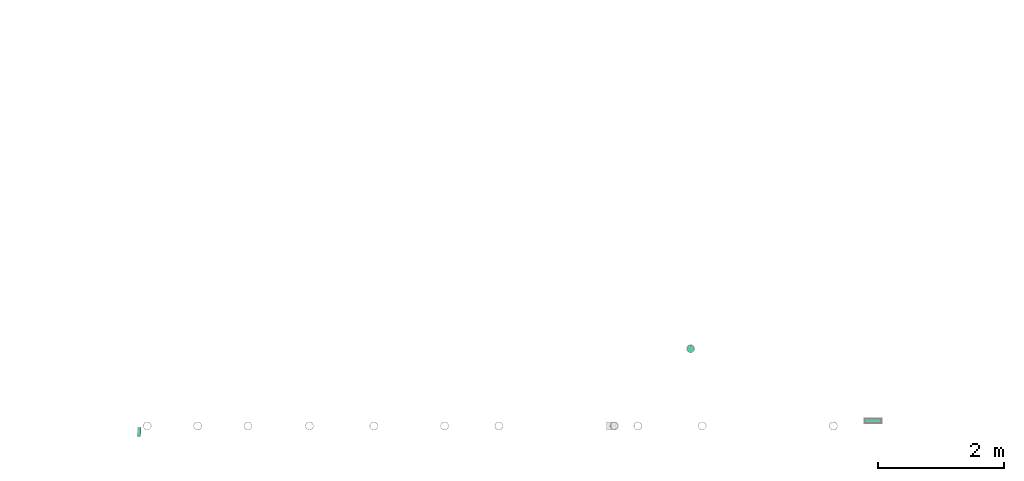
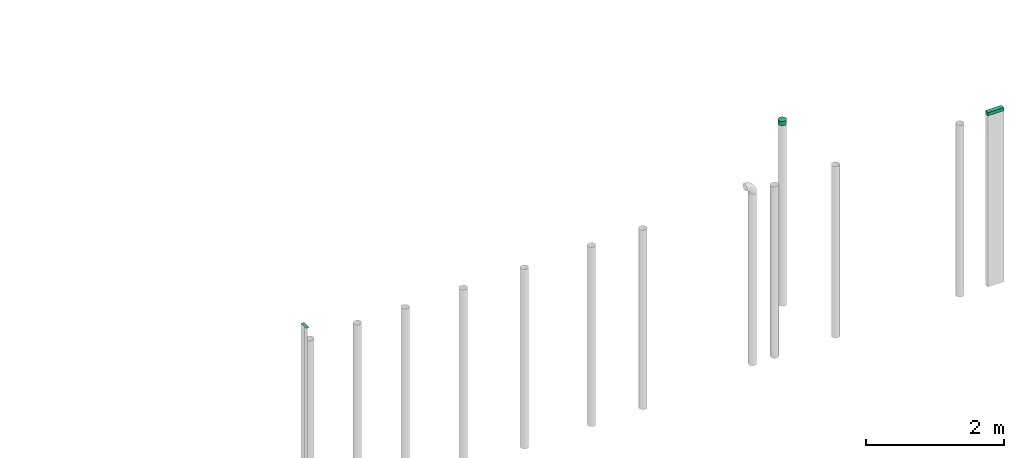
# One storey, part 7 of 7: 3 flow fittings.
"""IFC2X3 building model written with IfcOpenShell, lengths in millimetres."""

import ifcopenshell
import ifcopenshell.guid

model = None  # the IFC model being written
_history = None  # IfcOwnerHistory: only IFC2X3 demands one
_inside = {}  # id of a spatial element -> (the spatial element, [elements in it])
_under = {}  # id of a project, library or spatial element -> (it, [spatial elements below it])
_declared = {}  # id of a project -> (the project, [libraries it declares])
_typed = {}  # id of a type object -> (the type object, [elements of that type])
_made_of = {}  # id of a material, layer set ... -> (it, [elements and type objects made of it])


def new_model(schema):
    """Start an empty IFC model of exactly this schema.

    Asked for "IFC4X3", IfcOpenShell would pick the latest addendum, in which some entities
    have other attributes; the version numbers below select the first issue.
    IFC2X3 requires an IfcOwnerHistory on every rooted entity: one is made here for all.
    """
    global model, _history
    if schema == "IFC4X3":
        model = ifcopenshell.file(schema_version=(4, 3, 0, 0))
    else:
        model = ifcopenshell.file(schema=schema)
    _inside.clear()
    _under.clear()
    _declared.clear()
    _typed.clear()
    _made_of.clear()
    _history = None
    if model.schema == "IFC2X3":
        org = make("IfcOrganization", Name="unknown")
        user = make(
            "IfcPersonAndOrganization",
            ThePerson=make("IfcPerson", FamilyName="unknown"),
            TheOrganization=org,
        )
        app = make(
            "IfcApplication",
            ApplicationDeveloper=org,
            Version="unknown",
            ApplicationFullName="unknown",
            ApplicationIdentifier="unknown",
        )
        _history = make(
            "IfcOwnerHistory",
            OwningUser=user,
            OwningApplication=app,
            ChangeAction="ADDED",
            CreationDate=0,
        )
    return model


def make(cls, **values):
    """One entity of the class cls with the attributes given. An attribute that is None is left unset."""
    return model.create_entity(
        cls, **{name: value for name, value in values.items() if value is not None}
    )


def entity(cls, *values):
    """Any entity or typed value of the class cls, its attributes in the order of the schema. None: left unset."""
    e = model.create_entity(cls)
    for i, value in enumerate(values):
        if value is not None:
            e[i] = value
    return e


def rooted(cls, **values):
    """An entity with a GlobalId (a new one), such as an element, a storey or a relation."""
    return make(cls, GlobalId=ifcopenshell.guid.new(), OwnerHistory=_history, **values)


def si_unit(unit_type, name, prefix=None):
    """IfcSIUnit, for example si_unit("LENGTHUNIT", "METRE", prefix="MILLI")."""
    return make("IfcSIUnit", UnitType=unit_type, Prefix=prefix, Name=name)


def converted_unit(unit_type, name, factor, base, dimensions=None, offset=None):
    """IfcConversionBasedUnit, such as the inch: factor (a typed value) times the base unit."""
    return make(
        "IfcConversionBasedUnit"
        if offset is None
        else "IfcConversionBasedUnitWithOffset",
        ConversionOffset=offset,
        Dimensions=None
        if dimensions is None
        else entity("IfcDimensionalExponents", *dimensions),
        UnitType=unit_type,
        Name=name,
        ConversionFactor=make(
            "IfcMeasureWithUnit", ValueComponent=factor, UnitComponent=base
        ),
    )


def derived_unit(unit_type, elements):
    """IfcDerivedUnit: a product of units, each with its exponent."""
    return make(
        "IfcDerivedUnit",
        Elements=[
            make("IfcDerivedUnitElement", Unit=unit, Exponent=power)
            for unit, power in elements
        ],
        UnitType=unit_type,
    )


def assignment(units):
    """IfcUnitAssignment: the units of a project."""
    return None if units is None else make("IfcUnitAssignment", Units=units)


def point(xyz):
    """IfcCartesianPoint."""
    return None if xyz is None else make("IfcCartesianPoint", Coordinates=xyz)


def direction(xyz):
    """IfcDirection."""
    return None if xyz is None else make("IfcDirection", DirectionRatios=xyz)


def frame(location, z_axis=None, x_axis=None):
    """IfcAxis2Placement3D, a coordinate frame: its origin and axes. An axis left out is left unset."""
    return make(
        "IfcAxis2Placement3D",
        Location=point(location),
        Axis=direction(z_axis),
        RefDirection=direction(x_axis),
    )


def origin_with_axes():
    """The frame at (0, 0, 0) with the z axis (0, 0, 1) and the x axis (1, 0, 0) written out."""
    return frame((0.0, 0.0, 0.0), z_axis=(0.0, 0.0, 1.0), x_axis=(1.0, 0.0, 0.0))


def place(relative_to, where):
    """IfcLocalPlacement: puts the frame where relative to a parent placement (None: the world)."""
    return make(
        "IfcLocalPlacement", PlacementRelTo=relative_to, RelativePlacement=where
    )


def context(
    kind, dimensions, precision=None, world=None, true_north=None, identifier=None
):
    """IfcGeometricRepresentationContext, for example the 3D "Model" context."""
    return make(
        "IfcGeometricRepresentationContext",
        ContextIdentifier=identifier,
        ContextType=kind,
        CoordinateSpaceDimension=dimensions,
        Precision=precision,
        WorldCoordinateSystem=world,
        TrueNorth=true_north,
    )


def subcontext(parent, identifier, kind, view, scale=None):
    """IfcGeometricRepresentationSubContext, for example "Body" below "Model"."""
    return make(
        "IfcGeometricRepresentationSubContext",
        ContextIdentifier=identifier,
        ContextType=kind,
        ParentContext=parent,
        TargetScale=scale,
        TargetView=view,
    )


def project(units=None, contexts=None):
    """IfcProject with its units and contexts."""
    return rooted(
        "IfcProject",
        Name="project",
        RepresentationContexts=contexts,
        UnitsInContext=assignment(units),
    )


def spatial(cls, under=None, at=None, **own):
    """A site, building, storey or space (cls), placed at a placement, below another one or the project."""
    s = rooted(cls, ObjectPlacement=at, **own)
    if under is not None:
        _under.setdefault(under.id(), (under, []))[1].append(s)
    return s


def faces_of(points, faces, orient=None, outer=None):
    """IfcFace entities. A face is a list of loops; a loop is a list of indices into points, from 0.

    orient and outer hold one flag for each loop. By default every Orientation is true, the
    first loop of a face is its IfcFaceOuterBound and the others are IfcFaceBound.
    """
    made = []
    for i, loops in enumerate(faces):
        bounds = []
        for j, loop in enumerate(loops):
            is_outer = j == 0 if outer is None else outer[i][j]
            bounds.append(
                make(
                    "IfcFaceOuterBound" if is_outer else "IfcFaceBound",
                    Bound=make("IfcPolyLoop", Polygon=[points[k] for k in loop]),
                    Orientation=True if orient is None else orient[i][j],
                )
            )
        made.append(make("IfcFace", Bounds=bounds))
    return made


def open_shell(faces, orient=None, outer=None):
    """The faces of one IfcOpenShell. surface_model builds it on its shared points."""
    return ("IfcOpenShell", faces, orient, outer)


def surface_model(cls, points, shells):
    """IfcFaceBasedSurfaceModel or IfcShellBasedSurfaceModel (cls): surfaces that need not close."""
    shared = [point(p) for p in points]
    made = [make(c, CfsFaces=faces_of(shared, fs, o, b)) for c, fs, o, b in shells]
    if cls == "IfcFaceBasedSurfaceModel":
        return make(cls, FbsmFaces=made)
    return make(cls, SbsmBoundary=made)


def shape(context_of_items, identifier, shape_type, items):
    """IfcShapeRepresentation: the items that make up one representation, for example the "Body"."""
    return make(
        "IfcShapeRepresentation",
        ContextOfItems=context_of_items,
        RepresentationIdentifier=identifier,
        RepresentationType=shape_type,
        Items=items,
    )


def source(mapping_origin, context_of_items, identifier, shape_type, items):
    """IfcRepresentationMap: a shape defined once, which mapped items show again and again."""
    return make(
        "IfcRepresentationMap",
        MappingOrigin=mapping_origin,
        MappedRepresentation=shape(context_of_items, identifier, shape_type, items),
    )


def transform(
    local_origin,
    x_axis=None,
    y_axis=None,
    z_axis=None,
    scale=None,
    scale2=None,
    scale3=None,
    uniform=True,
):
    """IfcCartesianTransformationOperator3D, or its non-uniform kind. x_axis, y_axis, z_axis: its Axis1, 2, 3."""
    if uniform:
        return make(
            "IfcCartesianTransformationOperator3D",
            Axis1=direction(x_axis),
            Axis2=direction(y_axis),
            LocalOrigin=point(local_origin),
            Scale=scale,
            Axis3=direction(z_axis),
        )
    return make(
        "IfcCartesianTransformationOperator3DnonUniform",
        Axis1=direction(x_axis),
        Axis2=direction(y_axis),
        LocalOrigin=point(local_origin),
        Scale=scale,
        Axis3=direction(z_axis),
        Scale2=scale2,
        Scale3=scale3,
    )


def mapped(mapping_source, mapping_target):
    """IfcMappedItem: shows the shape of a source again, moved by a transform."""
    return make(
        "IfcMappedItem", MappingSource=mapping_source, MappingTarget=mapping_target
    )


def made_of(thing, what):
    """Note that an element or type object is made of a material, layer set ...; save() writes the relation."""
    if what is not None:
        _made_of.setdefault(what.id(), (what, []))[1].append(thing)
    return thing


def type_object(cls, material=None, **own):
    """A type object (cls), such as IfcWallType, which elements share."""
    return made_of(rooted(cls, **own), material)


def element(
    cls,
    number,
    at=None,
    inside=None,
    cuts=None,
    type_object=None,
    material=None,
    context=None,
    identifier="Body",
    shape_type=None,
    held_by="IfcProductDefinitionShape",
    body=None,
    shapes=None,
    **own,
):
    """One element of the class cls, such as IfcWall. Its Tag is "e" and its number.

    at: its placement. inside: the storey or other place that contains it. cuts: it is an
    opening in that element (IfcRelVoidsElement). A single representation is given by context,
    identifier, shape_type and body (its items); several are given by shapes. held_by: the class
    of the entity that holds the representations. save() writes the other relations.
    """
    e = rooted(cls, Tag="e%d" % number, ObjectPlacement=at, **own)
    if body is not None:
        shapes = [shape(context, identifier, shape_type, body)]
    if shapes is not None:
        e.Representation = make(held_by, Representations=shapes)
    if inside is not None:
        _inside.setdefault(inside.id(), (inside, []))[1].append(e)
    if cuts is not None:
        rooted(
            "IfcRelVoidsElement", RelatingBuildingElement=cuts, RelatedOpeningElement=e
        )
    if type_object is not None:
        _typed.setdefault(type_object.id(), (type_object, []))[1].append(e)
    return made_of(e, material)


def aggregate(whole, parts):
    """IfcRelAggregates: a whole, such as a stair, and the parts it consists of."""
    return rooted("IfcRelAggregates", RelatingObject=whole, RelatedObjects=parts)


def save(model, path):
    """Write the relations noted so far, then the file.

    IfcRelAggregates (storeys below a building ...), IfcRelContainedInSpatialStructure (elements
    in a storey), IfcRelDefinesByType, IfcRelAssociatesMaterial and IfcRelDeclares: one each for
    every whole, place, type object, material and project.
    """
    for whole, parts in _under.values():
        aggregate(whole, parts)
    for where, things in _inside.values():
        rooted(
            "IfcRelContainedInSpatialStructure",
            RelatedElements=things,
            RelatingStructure=where,
        )
    for kind, things in _typed.values():
        rooted("IfcRelDefinesByType", RelatedObjects=things, RelatingType=kind)
    for what, things in _made_of.values():
        rooted("IfcRelAssociatesMaterial", RelatedObjects=things, RelatingMaterial=what)
    for by, libraries in _declared.values():
        rooted("IfcRelDeclares", RelatingContext=by, RelatedDefinitions=libraries)
    model.write(path)


model = new_model("IFC2X3")

# Units and contexts
model_context = context("Model", 3, precision=0.01, world=frame((0.0, 4.29681676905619e-09, 0.0)), true_north=direction((4.01073788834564e-13, 1.0)))
plan_context = context("Plan", 3, precision=0.01, world=frame((0.0, 4.29681676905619e-09, 0.0)), true_north=direction((4.01073788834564e-13, 1.0)))
body_context = subcontext(model_context, "Body", "Model", "MODEL_VIEW")
ifc_project = project(units=[converted_unit("PLANEANGLEUNIT", "DEGREE", entity("IfcPositiveLengthMeasure", 0.0174532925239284), si_unit("PLANEANGLEUNIT", "RADIAN"), dimensions=[0, 0, 0, 0, 0, 0, 0]), si_unit("AREAUNIT", "SQUARE_METRE"), si_unit("LENGTHUNIT", "METRE", prefix="MILLI"), si_unit("MASSUNIT", "GRAM", prefix="KILO"), si_unit("POWERUNIT", "WATT"), si_unit("PRESSUREUNIT", "PASCAL"), si_unit("FORCEUNIT", "NEWTON", prefix="KILO"), si_unit("ELECTRICVOLTAGEUNIT", "VOLT"), si_unit("ELECTRICCURRENTUNIT", "AMPERE"), si_unit("THERMODYNAMICTEMPERATUREUNIT", "DEGREE_CELSIUS"), si_unit("TIMEUNIT", "SECOND"), si_unit("VOLUMEUNIT", "CUBIC_METRE"), derived_unit("LINEARVELOCITYUNIT", [(si_unit("LENGTHUNIT", "METRE"), 1), (si_unit("TIMEUNIT", "SECOND"), -1)]), derived_unit("VOLUMETRICFLOWRATEUNIT", [(si_unit("VOLUMEUNIT", "CUBIC_METRE"), 1), (si_unit("TIMEUNIT", "SECOND"), -1)]), derived_unit("THERMALTRANSMITTANCEUNIT", [(si_unit("POWERUNIT", "WATT"), 1), (si_unit("THERMODYNAMICTEMPERATUREUNIT", "KELVIN"), -1), (si_unit("AREAUNIT", "SQUARE_METRE"), -1)]), derived_unit("SOUNDPRESSUREUNIT", [(si_unit("PRESSUREUNIT", "PASCAL"), 1)])], contexts=[model_context, plan_context])

# Site, building, storey
site_placement = place(None, frame((0.0, -4.29681676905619e-09, 0.0), z_axis=(0.0, 0.0, 1.0), x_axis=(1.0, 0.0, 0.0)))
site = spatial("IfcSite", under=ifc_project, at=site_placement, CompositionType="ELEMENT")
building_placement = place(site_placement, frame((0.0, 4.29681676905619e-09, 0.0), z_axis=(0.0, 0.0, 1.0), x_axis=(1.0, 0.0, 0.0)))
building = spatial("IfcBuilding", under=site, at=building_placement, Name="mc-building", CompositionType="ELEMENT")
storey_placement = place(building_placement, frame((0.0, 0.0, 207370.0), z_axis=(0.0, 0.0, 1.0), x_axis=(1.0, 0.0, 0.0)))
storey = spatial("IfcBuildingStorey", under=building, at=storey_placement, Name="Nivå E", CompositionType="ELEMENT", Elevation=207370.0)

# Flow fittings
duct_fitting_type_1 = type_object("IfcDuctFittingType", Name="LEPR", PredefinedType="OBSTRUCTION")
shared_shape_1 = source(origin_with_axes(), body_context, "Body", "SurfaceModel", [
    surface_model("IfcShellBasedSurfaceModel", [(0.0, -75.0, 25.0), (0.0, 75.0, -25.0), (0.0, -75.0, -25.0), (0.0, 75.0, 25.0), (0.8, -75.0, -25.0), (0.8, 75.0, -25.0), (0.8, -75.0, 25.0), (0.8, 75.0, 25.0)], [open_shell([[[0, 1, 2]], [[1, 0, 3]], [[4, 5, 6]], [[7, 6, 5]], [[1, 3, 7]], [[7, 5, 1]], [[2, 1, 5]], [[5, 4, 2]], [[0, 2, 4]], [[4, 6, 0]], [[3, 0, 6]], [[6, 7, 3]]])]),
])
flow_fitting_1_placement = place(storey_placement, frame((522494.26875, 440797.96265, 5900.0), z_axis=(1.0, 0.0, 0.0), x_axis=(0.0, 0.0, 1.0)))
element("IfcFlowFitting", 1, at=flow_fitting_1_placement, inside=storey, type_object=duct_fitting_type_1, Name="LEPR", context=body_context, shape_type="MappedRepresentation", body=[
    mapped(shared_shape_1, transform((0.0, 0.0, 0.0), scale=1.0)),
])
duct_fitting_type_2 = type_object("IfcDuctFittingType", Name="magirect_outlet1_001 2", PredefinedType="CONNECTOR")
shared_shape_2 = source(origin_with_axes(), body_context, "Body", "SurfaceModel", [
    surface_model("IfcShellBasedSurfaceModel", [(-6.096, 135.0, -35.0), (-6.096, -135.0, -35.0), (-6.096, -135.0, 35.0), (-6.096, 135.0, 35.0), (50.0, -135.0, -35.0), (50.0, -135.0, 35.0), (50.0, 135.0, -35.0), (50.0, 135.0, 35.0)], [open_shell([[[0, 1, 2]], [[2, 3, 0]], [[4, 2, 1]], [[2, 4, 5]], [[6, 1, 0]], [[1, 6, 4]], [[6, 0, 3]], [[3, 7, 6]], [[7, 3, 2]], [[2, 5, 7]], [[7, 5, 4]], [[4, 6, 7]], [[6, 5, 4]], [[5, 6, 7]]])]),
])
flow_fitting_2_placement = place(storey_placement, frame((534141.14447, 440970.81875, 5543.0), z_axis=(0.0, -1.0, 0.0), x_axis=(0.0, 0.0, -1.0)))
element("IfcFlowFitting", 2, at=flow_fitting_2_placement, inside=storey, type_object=duct_fitting_type_2, Name="magirect_outlet1_001 2", context=body_context, shape_type="MappedRepresentation", body=[
    mapped(shared_shape_2, transform((0.0, 0.0, 0.0), scale=1.0)),
])
duct_fitting_type_3 = type_object("IfcDuctFittingType", Name="magicirc_tapoutlet_001", PredefinedType="CONNECTOR")
shared_shape_3 = source(origin_with_axes(), body_context, "Body", "SurfaceModel", [
    surface_model("IfcShellBasedSurfaceModel", [(20.0, 44.19417, -44.19417), (20.0, 54.12659, -31.25), (20.0, 62.5, 0.0), (20.0, 31.25, -54.12659), (20.0, -62.5, 0.0), (20.0, -60.37037, -16.17619), (20.0, -60.37037, 16.17619), (20.0, 0.0, -62.5), (20.0, 16.17619, -60.37037), (20.0, -16.17619, -60.37037), (20.0, -31.25, -54.12659), (20.0, -44.19417, -44.19417), (20.0, -54.12659, -31.25), (20.0, 60.37037, 16.17619), (20.0, 60.37037, -16.17619), (20.0, -44.19417, 44.19417), (20.0, -54.12659, 31.25), (20.0, -16.17619, 60.37037), (20.0, -31.25, 54.12659), (20.0, 16.17619, 60.37037), (20.0, 54.12659, 31.25), (20.0, 44.19417, 44.19417), (20.0, 31.25, 54.12659), (20.0, 0.0, 62.5), (0.0, 0.0, 62.5), (0.0, -16.17619, 60.37037), (0.0, -44.19417, 44.19417), (0.0, -31.25, 54.12659), (0.0, -54.12659, 31.25), (0.0, -60.37037, 16.17619), (0.0, -62.5, 0.0), (0.0, -60.37037, -16.17619), (0.0, -44.19417, -44.19417), (0.0, -54.12659, -31.25), (0.0, -31.25, -54.12659), (0.0, -16.17619, -60.37037), (0.0, 0.0, -62.5), (0.0, 16.17619, -60.37037), (0.0, 44.19417, -44.19417), (0.0, 31.25, -54.12659), (0.0, 54.12659, -31.25), (0.0, 60.37037, -16.17619), (0.0, 62.5, 0.0), (0.0, 60.37037, 16.17619), (0.0, 44.19417, 44.19417), (0.0, 54.12659, 31.25), (0.0, 31.25, 54.12659), (0.0, 16.17619, 60.37037), (-56.404, -16.17619, -60.37037), (-56.404, -62.5, 0.0), (-56.404, 0.0, -62.5), (-56.404, -31.25, -54.12659), (-56.404, -44.19417, -44.19417), (-56.404, -54.12659, -31.25), (-56.404, 44.19417, -44.19417), (-56.404, 60.37037, 16.17619), (-56.404, 31.25, -54.12659), (-56.404, 16.17619, -60.37037), (-56.404, 54.12659, -31.25), (-56.404, 60.37037, -16.17619), (-56.404, 62.5, 0.0), (-56.404, -60.37037, -16.17619), (-56.404, -60.37037, 16.17619), (-56.404, -54.12659, 31.25), (-56.404, -44.19417, 44.19417), (-56.404, -31.25, 54.12659), (-56.404, 0.0, 62.5), (-56.404, -16.17619, 60.37037), (-56.404, 44.19417, 44.19417), (-56.404, 54.12659, 31.25), (-56.404, 16.17619, 60.37037), (-56.404, 31.25, 54.12659)], [open_shell([[[0, 1, 2]], [[0, 2, 3]], [[4, 5, 6]], [[7, 8, 9]], [[9, 6, 10]], [[11, 6, 12]], [[10, 6, 11]], [[9, 2, 13]], [[8, 3, 2]], [[14, 2, 1]], [[2, 9, 8]], [[5, 12, 6]], [[15, 16, 9]], [[9, 17, 18]], [[17, 9, 19]], [[20, 21, 9]], [[20, 9, 13]], [[21, 22, 9]], [[9, 22, 19]], [[19, 23, 17]], [[17, 23, 24]], [[18, 17, 25]], [[25, 17, 24]], [[26, 15, 27]], [[18, 25, 27]], [[18, 27, 15]], [[6, 16, 28]], [[4, 6, 29]], [[28, 16, 26]], [[6, 28, 29]], [[4, 29, 30]], [[15, 26, 16]], [[5, 4, 30]], [[12, 5, 31]], [[31, 5, 30]], [[32, 11, 33]], [[12, 31, 33]], [[12, 33, 11]], [[9, 10, 34]], [[7, 9, 35]], [[34, 10, 32]], [[9, 34, 35]], [[7, 35, 36]], [[11, 32, 10]], [[8, 7, 36]], [[3, 8, 37]], [[37, 8, 36]], [[38, 0, 39]], [[3, 37, 39]], [[3, 39, 0]], [[14, 1, 40]], [[2, 14, 41]], [[40, 1, 38]], [[14, 40, 41]], [[2, 41, 42]], [[0, 38, 1]], [[13, 2, 42]], [[20, 13, 43]], [[43, 13, 42]], [[44, 21, 45]], [[20, 43, 45]], [[20, 45, 21]], [[19, 22, 46]], [[23, 19, 47]], [[46, 22, 44]], [[19, 46, 47]], [[23, 47, 24]], [[21, 44, 22]], [[9, 16, 6]], [[9, 15, 16]], [[18, 15, 9]], [[6, 9, 16]], [[9, 18, 15]], [[9, 19, 17]], [[9, 13, 20]], [[18, 9, 17]], [[48, 49, 50]], [[51, 49, 48]], [[52, 53, 49]], [[52, 49, 51]], [[54, 50, 55]], [[50, 54, 56]], [[56, 57, 50]], [[58, 55, 59]], [[55, 58, 54]], [[59, 55, 60]], [[49, 53, 61]], [[62, 63, 50]], [[50, 63, 64]], [[50, 65, 66]], [[64, 65, 50]], [[65, 67, 66]], [[50, 68, 69]], [[69, 55, 50]], [[70, 71, 50]], [[71, 68, 50]], [[70, 50, 66]], [[49, 62, 50]], [[25, 24, 66]], [[27, 25, 65]], [[67, 25, 66]], [[65, 25, 67]], [[65, 64, 27]], [[64, 26, 27]], [[29, 28, 62]], [[30, 29, 49]], [[64, 63, 26]], [[63, 28, 26]], [[62, 28, 63]], [[62, 49, 29]], [[31, 30, 61]], [[33, 31, 53]], [[61, 30, 49]], [[53, 31, 61]], [[53, 52, 33]], [[52, 32, 33]], [[35, 34, 48]], [[36, 35, 50]], [[52, 51, 32]], [[51, 34, 32]], [[48, 34, 51]], [[48, 50, 35]], [[56, 39, 37]], [[50, 37, 36]], [[57, 37, 50]], [[39, 56, 54]], [[57, 56, 37]], [[54, 38, 39]], [[41, 40, 59]], [[42, 41, 60]], [[54, 58, 38]], [[58, 40, 38]], [[59, 40, 58]], [[59, 60, 41]], [[69, 45, 43]], [[55, 43, 42]], [[42, 60, 55]], [[43, 55, 69]], [[69, 68, 45]], [[68, 44, 45]], [[47, 46, 70]], [[24, 47, 66]], [[68, 71, 44]], [[71, 46, 44]], [[70, 46, 71]], [[70, 66, 47]], [[50, 56, 57]], [[60, 59, 55]], [[63, 50, 62]], [[63, 64, 50]], [[65, 66, 50]], [[50, 64, 65]], [[67, 66, 65]], [[55, 50, 69]], [[62, 50, 49]]])]),
])
flow_fitting_3_placement = place(storey_placement, frame((531246.40768, 442118.25015, 5630.5), z_axis=(1.0, 0.0, 0.0), x_axis=(0.0, 0.0, -1.0)))
element("IfcFlowFitting", 3, at=flow_fitting_3_placement, inside=storey, type_object=duct_fitting_type_3, Name="magicirc_tapoutlet_001", context=body_context, shape_type="MappedRepresentation", body=[
    mapped(shared_shape_3, transform((0.0, 0.0, 0.0), scale=1.0)),
])

save(model, "model.ifc")
